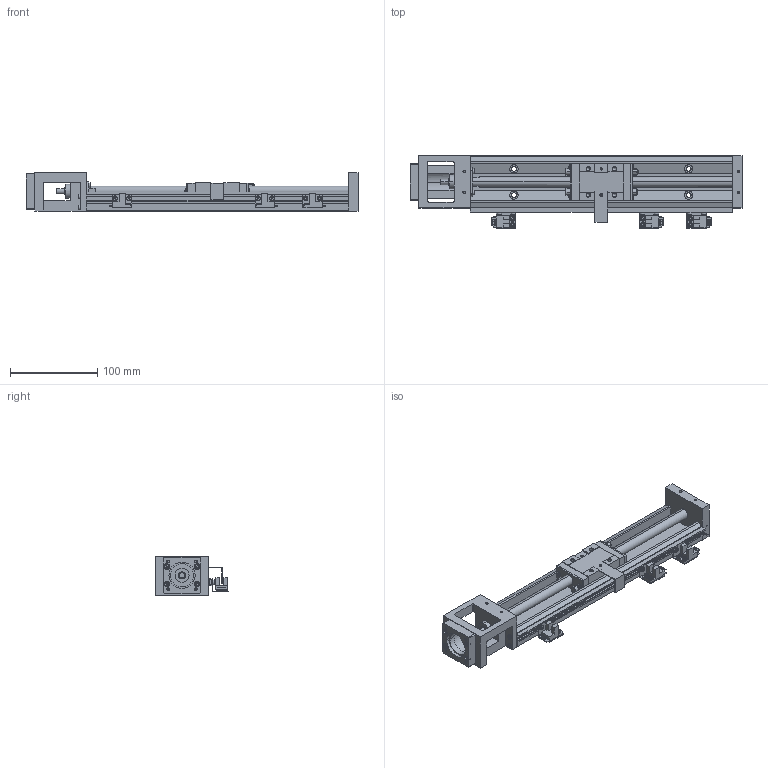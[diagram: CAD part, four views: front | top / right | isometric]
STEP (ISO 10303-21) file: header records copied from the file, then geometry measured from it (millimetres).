
FILE_DESCRIPTION(('starvars output'),'2;1');
FILE_NAME('cv20191118115917000025291.stp','11:59:18 2019/11/18',( 'Thomas Industrial Network Germany GmbH'),( 'Thomas Industrial Network Germany GmbH'),'unknown preprocess','ACIS' ,'unknown authorization');
FILE_SCHEMA(('AUTOMOTIVE_DESIGN_CC2 {UNKNOWN IMPLEMENTATION LEVEL}'));
Length unit declared in the file: millimetre
Products named in the file (2): PRODUCT_ID_1; PRODUCT_ID_2
Bounding box: 380 x 82.86 x 44.5 mm (x, y, z)
Volume: 419760.4 mm3; surface area: 130061.6 mm2
Topology: 2 solids, 2 shells, 1197 faces, 2904 edges, 1816 vertices
Faces by surface type: plane 683, cylinder 244, cone 204, torus 56, sphere 10
Entity records: 40094 total; most frequent: ORIENTED_EDGE 5764, CARTESIAN_POINT 5220, DIRECTION 4473, EDGE_CURVE 2882, VERTEX_POINT 1816, VECTOR 1759, LINE 1759, EDGE_LOOP 1376
